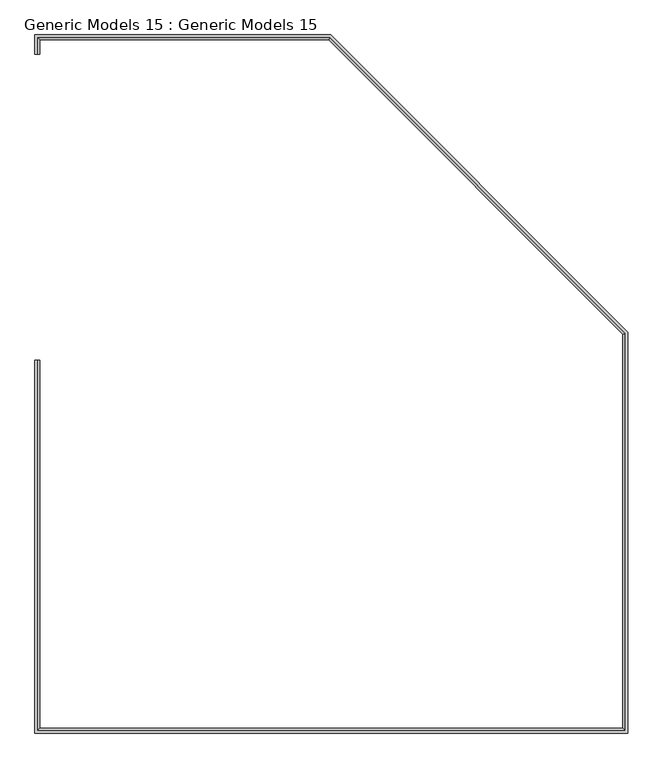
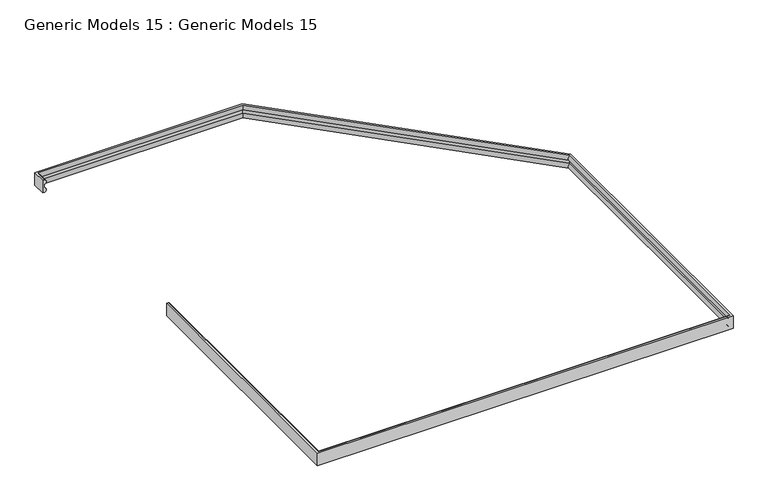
"""IFC4 building model written with IfcOpenShell, lengths in millimetres: proxy geometry, Generic Models 15 : Generic Models 15."""

from ifc_helpers import new_model, si_unit, frame, origin, place, context, project, spatial, circle_curve, ellipse_curve, source, transform, mapped, element, save
from ifc_brep_helpers import plane_surface, cylinder_surface, advanced_brep


def generic_models_15_generic_models_15_c705246f(model_context):
    return source(origin(), model_context, "Body", "AdvancedBrep", [
        advanced_brep(
        [(8032.75, 2019.3, 4368.8), (8026.4, 2019.3, 4368.8), (8026.4, 2019.3, 4318.0), (8032.75, 2019.3, 4318.0), (8032.75, 2019.3, 4336.6070143), (8032.75, 2019.3, 4350.1929857), (8032.75, 2063.75, 4368.8), (8809.3646215, 2063.75, 4368.8), (9594.85, 1278.2646215, 4368.8), (9594.85, 222.25, 4368.8), (8032.75, 222.25, 4368.8), (8032.75, 1206.5, 4368.8), (8026.4, 1206.5, 4368.8), (8026.4, 215.9, 4368.8), (9601.2, 215.9, 4368.8), (9601.2, 1280.8948776, 4368.8), (8811.9948776, 2070.1, 4368.8), (8026.4, 2070.1, 4368.8), (8026.4, 2070.1, 4318.0), (8811.9948776, 2070.1, 4318.0), (9601.2, 1280.8948776, 4318.0), (9601.2, 215.9, 4318.0), (8026.4, 215.9, 4318.0), (8026.4, 1206.5, 4318.0), (8032.75, 1206.5, 4318.0), (8032.75, 222.25, 4318.0), (9594.85, 222.25, 4318.0), (9594.85, 1278.2646215, 4318.0), (8809.3646215, 2063.75, 4318.0), (8032.75, 2063.75, 4318.0), (8032.75, 2063.75, 4336.6070143), (8032.75, 2063.75, 4350.1929857), (8809.3646215, 2063.75, 4336.6070143), (8809.3646215, 2063.75, 4350.1929857), (9594.85, 1278.2646215, 4336.6070143), (9594.85, 1278.2646215, 4350.1929857), (9594.85, 222.25, 4336.6070143), (9594.85, 222.25, 4350.1929857), (8032.75, 222.25, 4336.6070143), (8032.75, 222.25, 4350.1929857), (8032.75, 1206.5, 4350.1929857), (8032.75, 1206.5, 4336.6070143)],
        [
            (0, 1),
            (1, 2),
            (2, 3),
            (3, 4, circle_curve(frame((8029.9684468, 2019.3, 4327.3035071), z_axis=(0.0, -1.0, 0.0), x_axis=(1.0, 0.0, 0.0)), 9.7104214)),
            (4, 5),
            (5, 0, circle_curve(frame((8029.9684468, 2019.3, 4359.4964929), z_axis=(0.0, -1.0, 0.0), x_axis=(1.0, 0.0, 0.0)), 9.7104214)),
            (0, 6),
            (6, 7),
            (7, 8),
            (8, 9),
            (9, 10),
            (10, 11),
            (11, 12),
            (12, 13),
            (13, 14),
            (14, 15),
            (15, 16),
            (16, 17),
            (17, 1),
            (17, 18),
            (18, 2),
            (18, 19),
            (19, 20),
            (20, 21),
            (21, 22),
            (22, 23),
            (23, 24),
            (24, 25),
            (25, 26),
            (26, 27),
            (27, 28),
            (28, 29),
            (29, 3),
            (29, 30, ellipse_curve(frame((8029.9684468, 2066.5315532, 4327.3035071), z_axis=(-0.7071067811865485, -0.7071067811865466, 0.0), x_axis=(0.7071067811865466, -0.7071067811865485, 0.0)), 13.7326096, 9.7104214)),
            (30, 4),
            (30, 31),
            (31, 5),
            (31, 6, ellipse_curve(frame((8029.9684468, 2066.5315532, 4359.4964929), z_axis=(-0.7071067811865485, -0.7071067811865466, 0.0), x_axis=(0.7071067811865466, -0.7071067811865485, 0.0)), 13.7326096, 9.7104214)),
            (16, 19),
            (28, 32, ellipse_curve(frame((8810.5167785, 2066.5315532, 4327.3035071), z_axis=(-0.9238795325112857, 0.3826834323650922, 0.0), x_axis=(-0.38268343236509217, -0.9238795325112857, 0.0)), 10.5104843, 9.7104214)),
            (32, 30),
            (32, 33),
            (33, 31),
            (33, 7, ellipse_curve(frame((8810.5167785, 2066.5315532, 4359.4964929), z_axis=(-0.9238795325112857, 0.3826834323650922, 0.0), x_axis=(-0.38268343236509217, -0.9238795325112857, 0.0)), 10.5104843, 9.7104214)),
            (15, 20),
            (27, 34, ellipse_curve(frame((9597.6315532, 1279.4167785, 4327.3035071), z_axis=(-0.38268343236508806, 0.9238795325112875, 0.0), x_axis=(-0.9238795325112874, -0.3826834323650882, 0.0)), 10.5104843, 9.7104214)),
            (34, 32),
            (34, 35),
            (35, 33),
            (35, 8, ellipse_curve(frame((9597.6315532, 1279.4167785, 4359.4964929), z_axis=(-0.38268343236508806, 0.9238795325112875, 0.0), x_axis=(-0.9238795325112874, -0.3826834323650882, 0.0)), 10.5104843, 9.7104214)),
            (14, 21),
            (26, 36, ellipse_curve(frame((9597.6315532, 219.4684468, 4327.3035071), z_axis=(0.7071067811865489, 0.707106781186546, 0.0), x_axis=(-0.7071067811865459, 0.707106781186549, 0.0)), 13.7326096, 9.7104214)),
            (36, 34),
            (36, 37),
            (37, 35),
            (37, 9, ellipse_curve(frame((9597.6315532, 219.4684468, 4359.4964929), z_axis=(0.7071067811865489, 0.707106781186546, 0.0), x_axis=(-0.7071067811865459, 0.707106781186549, 0.0)), 13.7326096, 9.7104214)),
            (13, 22),
            (25, 38, ellipse_curve(frame((8029.9684468, 219.4684468, 4327.3035071), z_axis=(0.7071067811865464, -0.7071067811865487, 0.0), x_axis=(0.7071067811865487, 0.7071067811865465, 0.0)), 13.7326096, 9.7104214)),
            (38, 36),
            (38, 39),
            (39, 37),
            (39, 10, ellipse_curve(frame((8029.9684468, 219.4684468, 4359.4964929), z_axis=(0.7071067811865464, -0.7071067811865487, 0.0), x_axis=(0.7071067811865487, 0.7071067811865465, 0.0)), 13.7326096, 9.7104214)),
            (11, 40, circle_curve(frame((8029.9684468, 1206.5, 4359.4964929), z_axis=(0.0, 1.0, 0.0), x_axis=(1.0, 0.0, 0.0)), 9.7104214)),
            (40, 41),
            (41, 24, circle_curve(frame((8029.9684468, 1206.5, 4327.3035071), z_axis=(0.0, 1.0, 0.0), x_axis=(1.0, 0.0, 0.0)), 9.7104214)),
            (23, 12),
            (41, 38),
            (40, 39),
        ],
        [
            plane_surface(frame((8026.4, 2019.3, 4368.8), z_axis=(0.0, -1.0, 0.0), x_axis=(0.0, 0.0, 1.0))),
            plane_surface(frame((8032.75, 2019.3, 4368.8), z_axis=(0.0, 0.0, 1.0), x_axis=(0.0, 1.0, 0.0))),
            plane_surface(frame((8026.4, 2019.3, 4368.8), z_axis=(-1.0, 0.0, 0.0), x_axis=(0.0, 1.0, 0.0))),
            plane_surface(frame((8026.4, 2019.3, 4318.0), z_axis=(0.0, 0.0, -1.0), x_axis=(0.0, 1.0, 0.0))),
            cylinder_surface(frame((8029.9684468, 2019.3, 4327.3035071), z_axis=(0.0, -1.0, 0.0), x_axis=(1.0, 0.0, 0.0)), 9.7104214),
            plane_surface(frame((8032.75, 2019.3, 4336.6070143), z_axis=(1.0, 0.0, 0.0), x_axis=(0.0, 1.0, 0.0))),
            cylinder_surface(frame((8029.9684468, 2019.3, 4359.4964929), z_axis=(0.0, -1.0, 0.0), x_axis=(1.0, 0.0, 0.0)), 9.7104214),
            plane_surface(frame((8026.4, 2070.1, 4368.8), z_axis=(0.0, 1.0, 0.0), x_axis=(1.0, 0.0, 0.0))),
            cylinder_surface(frame((8026.4, 2066.5315532, 4327.3035071), z_axis=(-1.0, 0.0, 0.0), x_axis=(0.0, -1.0, 0.0)), 9.7104214),
            plane_surface(frame((8032.75, 2063.75, 4336.6070143), z_axis=(0.0, -1.0, 0.0), x_axis=(1.0, 0.0, 0.0))),
            cylinder_surface(frame((8026.4, 2066.5315532, 4359.4964929), z_axis=(-1.0, 0.0, 0.0), x_axis=(0.0, -1.0, 0.0)), 9.7104214),
            plane_surface(frame((8811.9948776, 2070.1, 4368.8), z_axis=(0.7071067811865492, 0.7071067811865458, 0.0), x_axis=(0.7071067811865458, -0.7071067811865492, 0.0))),
            cylinder_surface(frame((8809.4716046, 2067.576727, 4327.3035071), z_axis=(-0.7071067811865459, 0.7071067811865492, 0.0), x_axis=(-0.7071067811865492, -0.7071067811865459, 0.0)), 9.7104214),
            plane_surface(frame((8809.3646215, 2063.75, 4336.6070143), z_axis=(-0.7071067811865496, -0.7071067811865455, 0.0), x_axis=(0.7071067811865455, -0.7071067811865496, 0.0))),
            cylinder_surface(frame((8809.4716046, 2067.576727, 4359.4964929), z_axis=(-0.7071067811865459, 0.7071067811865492, 0.0), x_axis=(-0.7071067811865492, -0.7071067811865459, 0.0)), 9.7104214),
            plane_surface(frame((9601.2, 1280.8948776, 4368.8), z_axis=(1.0, 0.0, 0.0), x_axis=(0.0, -1.0, 0.0))),
            cylinder_surface(frame((9597.6315532, 1280.8948776, 4327.3035071), z_axis=(0.0, 1.0, 0.0), x_axis=(-1.0, 0.0, 0.0)), 9.7104214),
            plane_surface(frame((9594.85, 1278.2646215, 4336.6070143), z_axis=(-1.0, 0.0, 0.0), x_axis=(0.0, -1.0, 0.0))),
            cylinder_surface(frame((9597.6315532, 1280.8948776, 4359.4964929), z_axis=(0.0, 1.0, 0.0), x_axis=(-1.0, 0.0, 0.0)), 9.7104214),
            plane_surface(frame((9601.2, 215.9, 4368.8), z_axis=(0.0, -1.0, 0.0), x_axis=(-1.0, 0.0, 0.0))),
            cylinder_surface(frame((9601.2, 219.4684468, 4327.3035071), z_axis=(1.0, 0.0, 0.0), x_axis=(0.0, 1.0, 0.0)), 9.7104214),
            plane_surface(frame((9594.85, 222.25, 4336.6070143), z_axis=(0.0, 1.0, 0.0), x_axis=(-1.0, 0.0, 0.0))),
            cylinder_surface(frame((9601.2, 219.4684468, 4359.4964929), z_axis=(1.0, 0.0, 0.0), x_axis=(0.0, 1.0, 0.0)), 9.7104214),
            plane_surface(frame((8026.4, 1206.5, 4368.8), z_axis=(0.0, 1.0, 0.0), x_axis=(0.0, 0.0, 1.0))),
            plane_surface(frame((8026.4, 215.9, 4368.8), z_axis=(-1.0, 0.0, 0.0), x_axis=(0.0, 1.0, 0.0))),
            cylinder_surface(frame((8029.9684468, 215.9, 4327.3035071), z_axis=(0.0, -1.0, 0.0), x_axis=(1.0, 0.0, 0.0)), 9.7104214),
            plane_surface(frame((8032.75, 222.25, 4336.6070143), z_axis=(1.0, 0.0, 0.0), x_axis=(0.0, 1.0, 0.0))),
            cylinder_surface(frame((8029.9684468, 215.9, 4359.4964929), z_axis=(0.0, -1.0, 0.0), x_axis=(1.0, 0.0, 0.0)), 9.7104214),
        ],
        [
            (0, [[1, 2, 3, 4, 5, 6]]),
            (1, [[-1, 7, 8, 9, 10, 11, 12, 13, 14, 15, 16, 17, 18, 19]]),
            (2, [[-2, -19, 20, 21]]),
            (3, [[-3, -21, 22, 23, 24, 25, 26, 27, 28, 29, 30, 31, 32, 33]]),
            (4, [[-4, -33, 34, 35]]),
            (5, [[-5, -35, 36, 37]]),
            (6, [[-6, -37, 38, -7]]),
            (7, [[-20, -18, 39, -22]]),
            (8, [[-34, -32, 40, 41]]),
            (9, [[-36, -41, 42, 43]]),
            (10, [[-38, -43, 44, -8]]),
            (11, [[-39, -17, 45, -23]]),
            (12, [[-40, -31, 46, 47]]),
            (13, [[-42, -47, 48, 49]]),
            (14, [[-44, -49, 50, -9]]),
            (15, [[-45, -16, 51, -24]]),
            (16, [[-46, -30, 52, 53]]),
            (17, [[-48, -53, 54, 55]]),
            (18, [[-50, -55, 56, -10]]),
            (19, [[-51, -15, 57, -25]]),
            (20, [[-52, -29, 58, 59]]),
            (21, [[-54, -59, 60, 61]]),
            (22, [[-56, -61, 62, -11]]),
            (23, [[63, 64, 65, -27, 66, -13]]),
            (24, [[-57, -14, -66, -26]]),
            (25, [[-58, -28, -65, 67]]),
            (26, [[-60, -67, -64, 68]]),
            (27, [[-62, -68, -63, -12]]),
        ],
    ),
    ])


if __name__ == "__main__":
    model = new_model("IFC4")
    model_context = context("Model", 3, world=origin())
    ifc_project = project(units=[si_unit("LENGTHUNIT", "METRE", prefix="MILLI")], contexts=[model_context])
    site = spatial("IfcSite", under=ifc_project)
    building = spatial("IfcBuilding", under=site)
    placement = place(None, origin())
    generic_models_15_generic_models_15_shape = generic_models_15_generic_models_15_c705246f(model_context)
    element("IfcBuildingElementProxy", 1, Name="Generic Models 15 : Generic Models 15", ObjectType="Generic Models 15 : Generic Models 15", at=placement, inside=building, context=model_context, shape_type="MappedRepresentation", body=[
        mapped(generic_models_15_generic_models_15_shape, transform((0.0, 0.0, 0.0), x_axis=(1.0, 0.0, 0.0), y_axis=(0.0, 1.0, 0.0), z_axis=(0.0, 0.0, 1.0))),
    ])
    save(model, "model.ifc")
